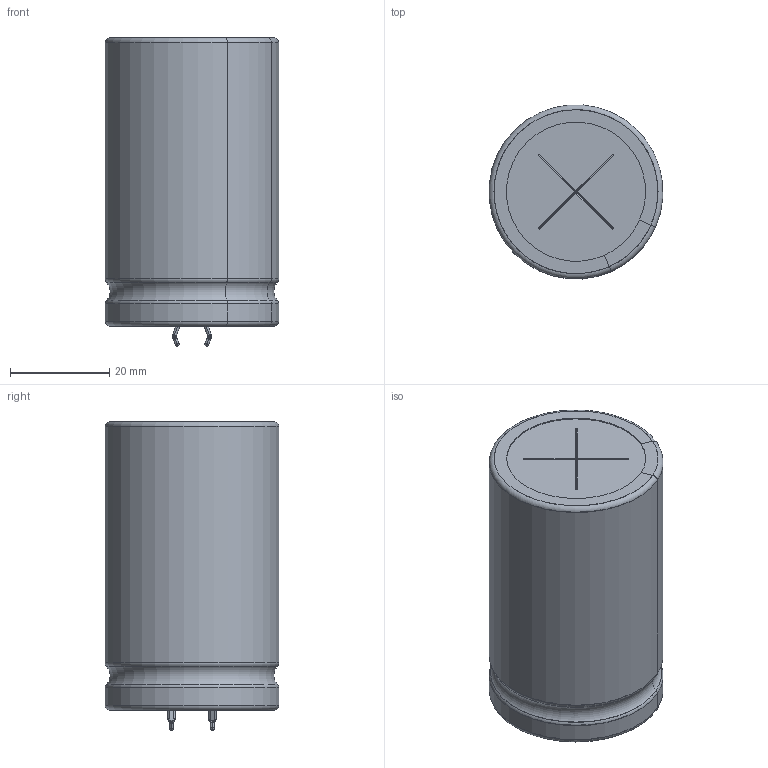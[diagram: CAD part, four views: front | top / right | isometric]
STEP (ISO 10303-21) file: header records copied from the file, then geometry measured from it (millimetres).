
FILE_DESCRIPTION(/* description */ (''),/* implementation_level */ '2;1');
FILE_NAME(/* name */ '35x58_Snap.stp',/* time_stamp */ '2017-09-11T16:48:26+09:00',/* author */ (''),/* organization */ (''),/* preprocessor_version */ 'ST-DEVELOPER v16',/* originating_system */ 'SIEMENS PLM Software NX 11.0',/* authorisation */ '');
FILE_SCHEMA (('AUTOMOTIVE_DESIGN { 1 0 10303 214 3 1 1 1 }'));
Length unit declared in the file: millimetre
Products named in the file (1): 35x58_Snap_0
Bounding box: 34.9 x 34.9 x 62.02 mm (x, y, z)
Volume: 55206.7 mm3; surface area: 22249.5 mm2
Topology: 5 solids, 5 shells, 208 faces, 523 edges, 310 vertices
Faces by surface type: cylinder 76, plane 75, torus 25, sphere 20, bspline 12
Full cylindrical faces by diameter (mm): 4 x2, 34.6 x2
Entity records: 6775 total; most frequent: CARTESIAN_POINT 1265, DIRECTION 1128, ORIENTED_EDGE 988, EDGE_CURVE 494, AXIS2_PLACEMENT_3D 437, VERTEX_POINT 310, LINE 254, VECTOR 254
